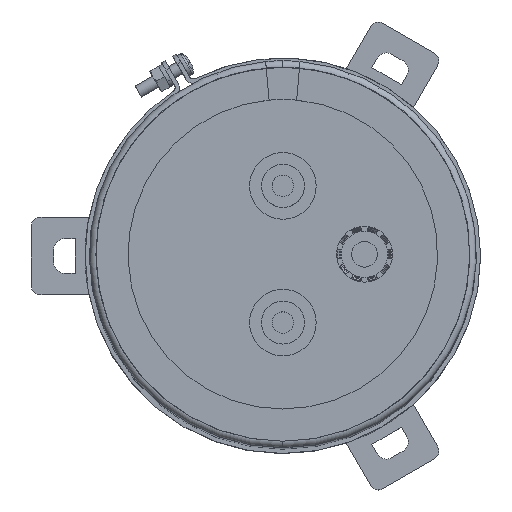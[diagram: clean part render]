
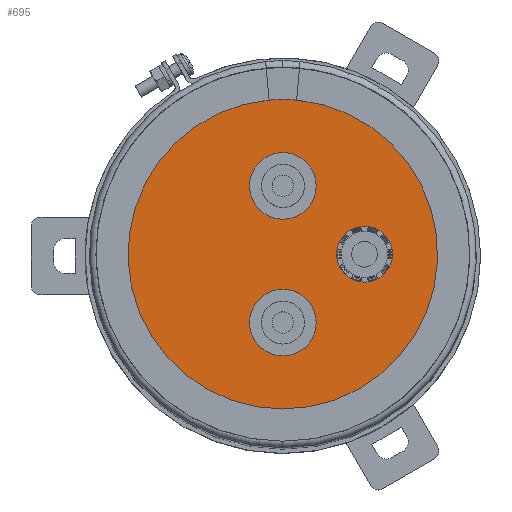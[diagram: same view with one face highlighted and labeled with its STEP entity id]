
A CAD part, top view. The second image highlights one B-rep face of the part: STEP entity #695.
In plain terms, the highlighted planar face has unit normal (0, 0, 1).
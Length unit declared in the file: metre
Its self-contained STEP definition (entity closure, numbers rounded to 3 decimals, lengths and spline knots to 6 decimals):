
#695=ADVANCED_FACE('0:51',(#1182,#1183,#1184,#1185),#1186,.F.);
#1182=FACE_BOUND('',#2286,.T.);
#1183=FACE_BOUND('',#2287,.T.);
#1184=FACE_BOUND('',#2288,.T.);
#1185=FACE_OUTER_BOUND('',#2289,.T.);
#1186=PLANE('',#2290);
#2286=EDGE_LOOP('',(#3171,#3172));
#2287=EDGE_LOOP('',(#3173,#3174));
#2288=EDGE_LOOP('',(#3175,#3176));
#2289=EDGE_LOOP('',(#3177,#3178));
#2290=AXIS2_PLACEMENT_3D('',#3179,#3180,#3181);
#3171=ORIENTED_EDGE('',*,*,#5778,.F.);
#3172=ORIENTED_EDGE('',*,*,#5779,.F.);
#3173=ORIENTED_EDGE('',*,*,#5780,.T.);
#3174=ORIENTED_EDGE('',*,*,#5741,.T.);
#3175=ORIENTED_EDGE('',*,*,#5745,.F.);
#3176=ORIENTED_EDGE('',*,*,#5781,.F.);
#3177=ORIENTED_EDGE('',*,*,#5759,.F.);
#3178=ORIENTED_EDGE('',*,*,#5782,.F.);
#3179=CARTESIAN_POINT('',(0.0,0.,0.2344));
#3180=DIRECTION('',(0.0,0.0,-1.0));
#3181=DIRECTION('',(0.0,-1.0,0.0));
#5741=EDGE_CURVE('0:135',#6795,#6799,#6801,.T.);
#5745=EDGE_CURVE('0:138',#6807,#6803,#6809,.T.);
#5759=EDGE_CURVE('0:141',#6830,#6832,#6833,.T.);
#5778=EDGE_CURVE('0:132',#6866,#6862,#6868,.T.);
#5779=EDGE_CURVE('0:132',#6862,#6866,#6869,.T.);
#5780=EDGE_CURVE('0:135',#6799,#6795,#6870,.T.);
#5781=EDGE_CURVE('0:138',#6803,#6807,#6871,.T.);
#5782=EDGE_CURVE('0:141',#6832,#6830,#6872,.T.);
#6795=VERTEX_POINT('',#8329);
#6799=VERTEX_POINT('',#8334);
#6801=CIRCLE('',#8337,0.00775);
#6803=VERTEX_POINT('',#8339);
#6807=VERTEX_POINT('',#8344);
#6809=CIRCLE('',#8347,0.00775);
#6830=VERTEX_POINT('',#8370);
#6832=VERTEX_POINT('',#8372);
#6833=CIRCLE('',#8373,0.0435);
#6862=VERTEX_POINT('',#8408);
#6866=VERTEX_POINT('',#8413);
#6868=CIRCLE('',#8416,0.0065);
#6869=CIRCLE('',#8417,0.0065);
#6870=CIRCLE('',#8418,0.00775);
#6871=CIRCLE('',#8419,0.00775);
#6872=CIRCLE('',#8420,0.0435);
#8329=CARTESIAN_POINT('',(0.,0.02365,0.2344));
#8334=CARTESIAN_POINT('',(0.,0.00815,0.2344));
#8337=AXIS2_PLACEMENT_3D('',#9939,#9940,#9941);
#8339=CARTESIAN_POINT('',(0.,-0.00815,0.2344));
#8344=CARTESIAN_POINT('',(0.0,-0.02365,0.2344));
#8347=AXIS2_PLACEMENT_3D('',#9947,#9948,#9949);
#8370=CARTESIAN_POINT('',(0.0,0.0435,0.2344));
#8372=CARTESIAN_POINT('',(0.,-0.0435,0.2344));
#8373=AXIS2_PLACEMENT_3D('',#9985,#9986,#9987);
#8408=CARTESIAN_POINT('',(0.019,-0.0065,0.2344));
#8413=CARTESIAN_POINT('',(0.019,0.0065,0.2344));
#8416=AXIS2_PLACEMENT_3D('',#10026,#10027,#10028);
#8417=AXIS2_PLACEMENT_3D('',#10029,#10030,#10031);
#8418=AXIS2_PLACEMENT_3D('',#10032,#10033,#10034);
#8419=AXIS2_PLACEMENT_3D('',#10035,#10036,#10037);
#8420=AXIS2_PLACEMENT_3D('',#10038,#10039,#10040);
#9939=CARTESIAN_POINT('',(0.0,0.0159,0.2344));
#9940=DIRECTION('',(0.0,0.0,-1.0));
#9941=DIRECTION('',(0.,-1.0,0.0));
#9947=CARTESIAN_POINT('',(0.0,-0.0159,0.2344));
#9948=DIRECTION('',(0.0,0.0,1.0));
#9949=DIRECTION('',(0.0,-1.0,0.0));
#9985=CARTESIAN_POINT('',(0.0,0.0,0.2344));
#9986=DIRECTION('',(0.0,0.0,-1.0));
#9987=DIRECTION('',(0.0,1.0,0.0));
#10026=CARTESIAN_POINT('',(0.019,0.,0.2344));
#10027=DIRECTION('',(-0.0,0.0,1.0));
#10028=DIRECTION('',(0.0,-1.0,0.0));
#10029=CARTESIAN_POINT('',(0.019,0.,0.2344));
#10030=DIRECTION('',(-0.0,0.0,1.0));
#10031=DIRECTION('',(0.0,-1.0,0.0));
#10032=CARTESIAN_POINT('',(0.0,0.0159,0.2344));
#10033=DIRECTION('',(0.0,0.0,-1.0));
#10034=DIRECTION('',(0.,-1.0,0.0));
#10035=CARTESIAN_POINT('',(0.0,-0.0159,0.2344));
#10036=DIRECTION('',(0.0,0.0,1.0));
#10037=DIRECTION('',(0.0,-1.0,0.0));
#10038=CARTESIAN_POINT('',(0.0,0.0,0.2344));
#10039=DIRECTION('',(0.0,0.0,-1.0));
#10040=DIRECTION('',(0.0,1.0,0.0));
